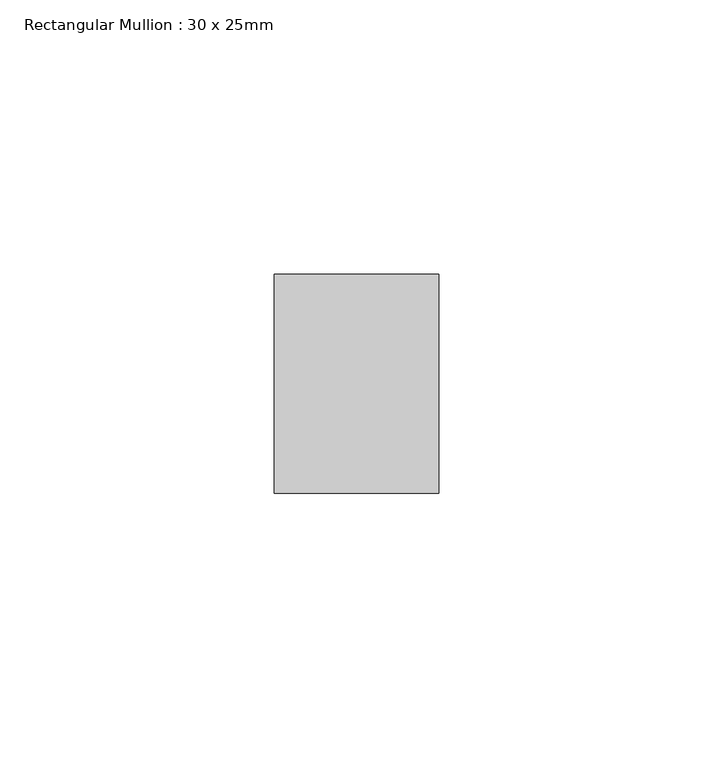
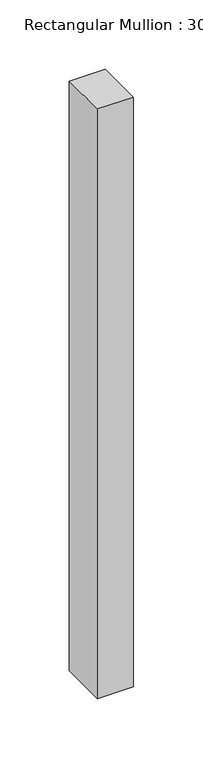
"""IFC4 building model written with IfcOpenShell, lengths in millimetres: member geometry, Rectangular Mullion : 30 x 25mm."""

from ifc_helpers import new_model, si_unit, frame, origin, place, context, project, spatial, polyline, outline, extrude, source, transform, mapped, element, save


def rectangular_mullion_30_x_25mm_484c0d97(model_context):
    return source(origin(), model_context, "Body", "SweptSolid", [
        extrude(outline(polyline([(0.0, -20.0), (0.0, -60.0), (-30.0, -60.0), (-30.0, -20.0), (0.0, -20.0)])), frame((0.0, 0.0, -518.4045128), z_axis=(0.0, 0.0, 1.0), x_axis=(1.0, 0.0, 0.0)), (0.0, 0.0, 1.0), 518.4045128),
    ])


if __name__ == "__main__":
    model = new_model("IFC4")
    model_context = context("Model", 3, world=origin())
    ifc_project = project(units=[si_unit("LENGTHUNIT", "METRE", prefix="MILLI")], contexts=[model_context])
    site = spatial("IfcSite", under=ifc_project)
    building = spatial("IfcBuilding", under=site)
    placement = place(None, origin())
    rectangular_mullion_30_x_25mm_shape = rectangular_mullion_30_x_25mm_484c0d97(model_context)
    element("IfcMember", 1, ObjectType="Rectangular Mullion : 30 x 25mm", at=placement, inside=building, context=model_context, shape_type="MappedRepresentation", body=[
        mapped(rectangular_mullion_30_x_25mm_shape, transform((0.0, 0.0, 0.0), x_axis=(1.0, 0.0, 0.0), y_axis=(0.0, 1.0, 0.0), z_axis=(0.0, 0.0, 1.0))),
    ])
    save(model, "model.ifc")
